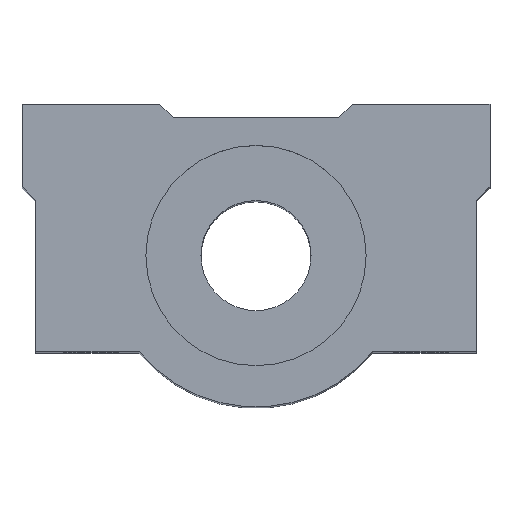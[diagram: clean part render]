
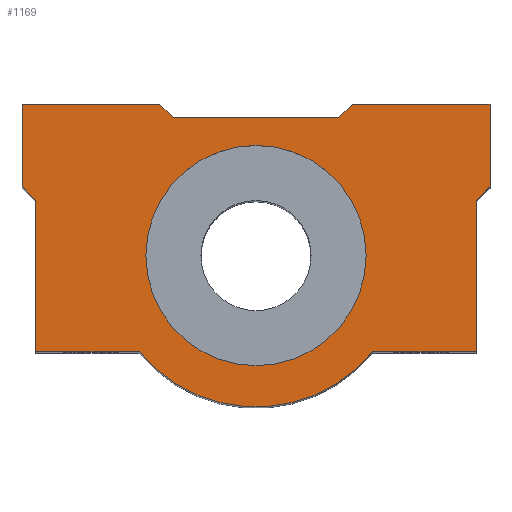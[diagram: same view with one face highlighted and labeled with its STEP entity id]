
A CAD part, top view. The second image highlights one B-rep face of the part: STEP entity #1169.
In plain terms, the highlighted planar face has unit normal (0, 0, 1).
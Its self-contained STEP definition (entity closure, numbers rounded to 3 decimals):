
#91=CARTESIAN_POINT('',(-8.709,4.198,56.0));
#92=VERTEX_POINT('',#91);
#101=CARTESIAN_POINT('',(7.291,4.198,56.));
#102=VERTEX_POINT('',#101);
#103=CARTESIAN_POINT('',(-0.709,4.198,56.));
#104=DIRECTION('',(0.0,0.0,-1.0));
#105=DIRECTION('',(-1.0,0.0,0.0));
#106=AXIS2_PLACEMENT_3D('',#103,#104,#105);
#107=CIRCLE('',#106,8.0);
#108=EDGE_CURVE('',#102,#92,#107,.T.);
#640=CARTESIAN_POINT('',(-0.709,4.198,56.));
#641=DIRECTION('',(0.0,0.0,-1.0));
#642=DIRECTION('',(-1.0,0.0,0.0));
#643=AXIS2_PLACEMENT_3D('',#640,#641,#642);
#644=CIRCLE('',#643,8.0);
#645=EDGE_CURVE('',#92,#102,#644,.T.);
#780=CARTESIAN_POINT('',(16.291,9.198,56.));
#781=VERTEX_POINT('',#780);
#782=CARTESIAN_POINT('',(15.291,8.198,56.));
#783=VERTEX_POINT('',#782);
#784=CARTESIAN_POINT('',(16.291,9.198,56.));
#785=DIRECTION('',(-0.707,-0.707,0.0));
#786=VECTOR('',#785,1.414);
#787=LINE('',#784,#786);
#788=EDGE_CURVE('',#781,#783,#787,.T.);
#811=CARTESIAN_POINT('',(15.291,-2.802,56.));
#812=VERTEX_POINT('',#811);
#813=CARTESIAN_POINT('',(15.291,8.198,56.));
#814=DIRECTION('',(0.0,-1.0,0.0));
#815=VECTOR('',#814,11.);
#816=LINE('',#813,#815);
#817=EDGE_CURVE('',#783,#812,#816,.T.);
#835=CARTESIAN_POINT('',(7.776,-2.802,56.));
#836=VERTEX_POINT('',#835);
#837=CARTESIAN_POINT('',(15.291,-2.802,56.));
#838=DIRECTION('',(-1.0,0.0,0.0));
#839=VECTOR('',#838,7.515);
#840=LINE('',#837,#839);
#841=EDGE_CURVE('',#812,#836,#840,.T.);
#867=CARTESIAN_POINT('',(-9.194,-2.802,56.));
#868=VERTEX_POINT('',#867);
#869=CARTESIAN_POINT('',(-0.709,4.198,56.));
#870=DIRECTION('',(0.0,0.0,-1.));
#871=DIRECTION('',(0.771,0.636,0.0));
#872=AXIS2_PLACEMENT_3D('',#869,#870,#871);
#873=CIRCLE('',#872,11.0);
#874=EDGE_CURVE('',#836,#868,#873,.T.);
#892=CARTESIAN_POINT('',(-16.709,-2.802,56.));
#893=VERTEX_POINT('',#892);
#894=CARTESIAN_POINT('',(-9.194,-2.802,56.));
#895=DIRECTION('',(-1.0,0.0,0.0));
#896=VECTOR('',#895,7.515);
#897=LINE('',#894,#896);
#898=EDGE_CURVE('',#868,#893,#897,.T.);
#924=CARTESIAN_POINT('',(-16.709,8.198,56.));
#925=VERTEX_POINT('',#924);
#926=CARTESIAN_POINT('',(-16.709,-2.802,56.));
#927=DIRECTION('',(0.0,1.0,0.0));
#928=VECTOR('',#927,11.);
#929=LINE('',#926,#928);
#930=EDGE_CURVE('',#893,#925,#929,.T.);
#948=CARTESIAN_POINT('',(-17.709,9.198,56.));
#949=VERTEX_POINT('',#948);
#950=CARTESIAN_POINT('',(-16.709,8.198,56.));
#951=DIRECTION('',(-0.707,0.707,0.0));
#952=VECTOR('',#951,1.414);
#953=LINE('',#950,#952);
#954=EDGE_CURVE('',#925,#949,#953,.T.);
#972=CARTESIAN_POINT('',(-17.709,15.198,56.));
#973=VERTEX_POINT('',#972);
#974=CARTESIAN_POINT('',(-17.709,9.198,56.));
#975=DIRECTION('',(0.0,1.0,0.0));
#976=VECTOR('',#975,6.);
#977=LINE('',#974,#976);
#978=EDGE_CURVE('',#949,#973,#977,.T.);
#996=CARTESIAN_POINT('',(-7.709,15.198,56.));
#997=VERTEX_POINT('',#996);
#998=CARTESIAN_POINT('',(-17.709,15.198,56.));
#999=DIRECTION('',(1.0,0.0,0.0));
#1000=VECTOR('',#999,10.);
#1001=LINE('',#998,#1000);
#1002=EDGE_CURVE('',#973,#997,#1001,.T.);
#1028=CARTESIAN_POINT('',(-6.709,14.198,56.));
#1029=VERTEX_POINT('',#1028);
#1030=CARTESIAN_POINT('',(-7.709,15.198,56.));
#1031=DIRECTION('',(0.707,-0.707,0.0));
#1032=VECTOR('',#1031,1.414);
#1033=LINE('',#1030,#1032);
#1034=EDGE_CURVE('',#997,#1029,#1033,.T.);
#1052=CARTESIAN_POINT('',(5.291,14.198,56.));
#1053=VERTEX_POINT('',#1052);
#1054=CARTESIAN_POINT('',(-6.709,14.198,56.));
#1055=DIRECTION('',(1.0,0.0,0.0));
#1056=VECTOR('',#1055,12.);
#1057=LINE('',#1054,#1056);
#1058=EDGE_CURVE('',#1029,#1053,#1057,.T.);
#1076=CARTESIAN_POINT('',(6.291,15.198,56.));
#1077=VERTEX_POINT('',#1076);
#1078=CARTESIAN_POINT('',(5.291,14.198,56.));
#1079=DIRECTION('',(0.707,0.707,0.0));
#1080=VECTOR('',#1079,1.414);
#1081=LINE('',#1078,#1080);
#1082=EDGE_CURVE('',#1053,#1077,#1081,.T.);
#1100=CARTESIAN_POINT('',(16.291,15.198,56.));
#1101=VERTEX_POINT('',#1100);
#1102=CARTESIAN_POINT('',(6.291,15.198,56.));
#1103=DIRECTION('',(1.0,0.0,0.0));
#1104=VECTOR('',#1103,10.);
#1105=LINE('',#1102,#1104);
#1106=EDGE_CURVE('',#1077,#1101,#1105,.T.);
#1132=CARTESIAN_POINT('',(16.291,15.198,56.));
#1133=DIRECTION('',(0.0,-1.0,0.0));
#1134=VECTOR('',#1133,6.);
#1135=LINE('',#1132,#1134);
#1136=EDGE_CURVE('',#1101,#781,#1135,.T.);
#1144=CARTESIAN_POINT('',(-0.709,5.694,56.));
#1145=DIRECTION('',(0.0,0.0,1.0));
#1146=DIRECTION('',(1.0,0.0,0.0));
#1147=AXIS2_PLACEMENT_3D('',#1144,#1145,#1146);
#1148=PLANE('',#1147);
#1149=ORIENTED_EDGE('',*,*,#788,.F.);
#1150=ORIENTED_EDGE('',*,*,#1136,.F.);
#1151=ORIENTED_EDGE('',*,*,#1106,.F.);
#1152=ORIENTED_EDGE('',*,*,#1082,.F.);
#1153=ORIENTED_EDGE('',*,*,#1058,.F.);
#1154=ORIENTED_EDGE('',*,*,#1034,.F.);
#1155=ORIENTED_EDGE('',*,*,#1002,.F.);
#1156=ORIENTED_EDGE('',*,*,#978,.F.);
#1157=ORIENTED_EDGE('',*,*,#954,.F.);
#1158=ORIENTED_EDGE('',*,*,#930,.F.);
#1159=ORIENTED_EDGE('',*,*,#898,.F.);
#1160=ORIENTED_EDGE('',*,*,#874,.F.);
#1161=ORIENTED_EDGE('',*,*,#841,.F.);
#1162=ORIENTED_EDGE('',*,*,#817,.F.);
#1163=EDGE_LOOP('',(#1149,#1150,#1151,#1152,#1153,#1154,#1155,#1156,#1157,#1158,#1159,#1160,#1161,#1162));
#1164=FACE_OUTER_BOUND('',#1163,.T.);
#1165=ORIENTED_EDGE('',*,*,#108,.T.);
#1166=ORIENTED_EDGE('',*,*,#645,.T.);
#1167=EDGE_LOOP('',(#1165,#1166));
#1168=FACE_BOUND('',#1167,.T.);
#1169=ADVANCED_FACE('',(#1164,#1168),#1148,.T.);
